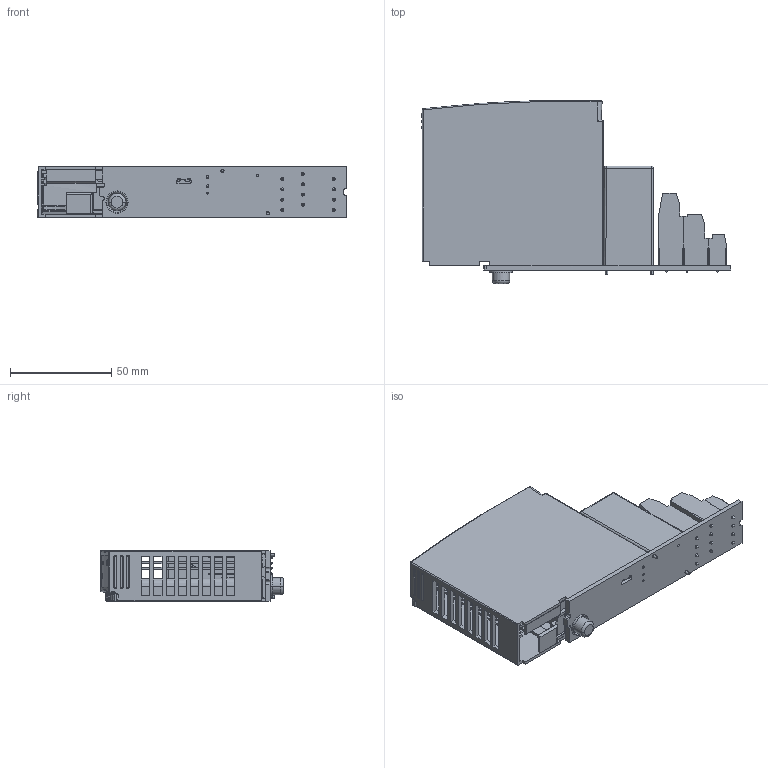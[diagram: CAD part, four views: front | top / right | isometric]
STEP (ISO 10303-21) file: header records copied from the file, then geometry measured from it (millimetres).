
FILE_DESCRIPTION((''),'2;1');
FILE_NAME('IGESFILE','2012-04-11T',('chrisloe'),(''),'PRO/ENGINEER BY PARAMETRIC TECHNOLOGY CORPORATION, 2010180','PRO/ENGINEER BY PARAMETRIC TECHNOLOGY CORPORATION, 2010180','');
FILE_SCHEMA(('CONFIG_CONTROL_DESIGN'));
Products named in the file (1): IGESFILE
Bounding box: 153.1 x 90.46 x 25.05 mm (x, y, z)
Volume: 73102.5 mm3; surface area: 69687.3 mm2
Topology: 1 solids, 2 shells, 2469 faces, 6855 edges, 4424 vertices
Faces by surface type: plane 1941, cylinder 313, cone 93, bspline 47, torus 43, sphere 28, extrusion 4
Entity records: 82739 total; most frequent: CARTESIAN_POINT 20835, ORIENTED_EDGE 13698, DIRECTION 11543, EDGE_CURVE 6849, VECTOR 4961, LINE 4957, VERTEX_POINT 4424, AXIS2_PLACEMENT_3D 3291
